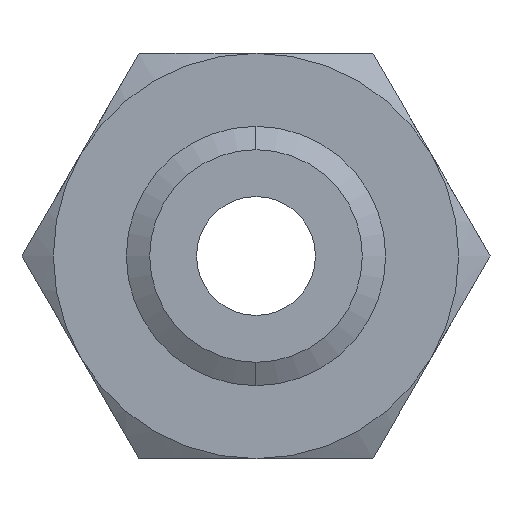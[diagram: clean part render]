
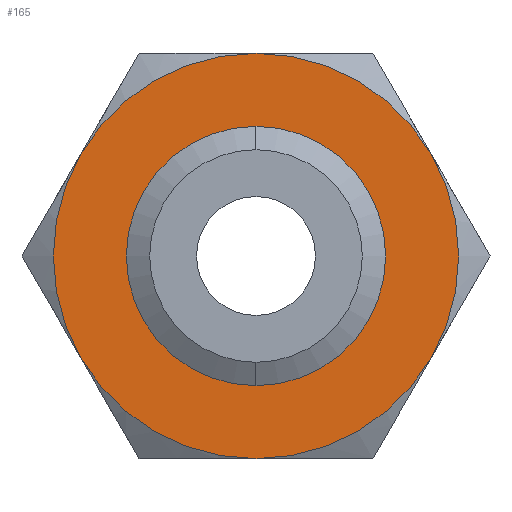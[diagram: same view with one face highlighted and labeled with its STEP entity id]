
A CAD part, front view. The second image highlights one B-rep face of the part: STEP entity #165.
In plain terms, the highlighted planar face has unit normal (0, -1, 0).
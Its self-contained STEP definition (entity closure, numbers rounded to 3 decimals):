
#6 = EDGE_CURVE ( 'NONE', #206, #208, #595, .T. ) ;
#148 = EDGE_LOOP ( 'NONE', ( #162, #172, #2136, #2129, #2130, #2126 ) ) ;
#150 = VERTEX_POINT ( 'NONE', #837 ) ;
#162 = ORIENTED_EDGE ( 'NONE', *, *, #171, .F. ) ;
#165 = ADVANCED_FACE ( 'NONE', ( #879, #878 ), #877, .F. ) ;
#170 = VERTEX_POINT ( 'NONE', #866 ) ;
#171 = EDGE_CURVE ( 'NONE', #150, #170, #865, .T. ) ;
#172 = ORIENTED_EDGE ( 'NONE', *, *, #2134, .F. ) ;
#206 = VERTEX_POINT ( 'NONE', #974 ) ;
#208 = VERTEX_POINT ( 'NONE', #969 ) ;
#392 = EDGE_CURVE ( 'NONE', #208, #206, #1306, .T. ) ;
#591 = DIRECTION ( 'NONE',  ( 0., 0., -1. ) ) ;
#592 = DIRECTION ( 'NONE',  ( 0., -1., 0. ) ) ;
#593 = CARTESIAN_POINT ( 'NONE',  ( 0., 0., 0. ) ) ;
#594 = AXIS2_PLACEMENT_3D ( 'NONE', #593, #592, #591 ) ;
#595 = CIRCLE ( 'NONE', #594, 19.67 ) ;
#837 = CARTESIAN_POINT ( 'NONE',  ( 0., 0., 37.5 ) ) ;
#861 = DIRECTION ( 'NONE',  ( 0., 0., 1. ) ) ;
#862 = DIRECTION ( 'NONE',  ( 0., 1., 0. ) ) ;
#863 = CARTESIAN_POINT ( 'NONE',  ( 0., 0., 0. ) ) ;
#864 = AXIS2_PLACEMENT_3D ( 'NONE', #863, #862, #861 ) ;
#865 = CIRCLE ( 'NONE', #864, 37.5 ) ;
#866 = CARTESIAN_POINT ( 'NONE',  ( 32.476, 0., 18.75 ) ) ;
#873 = DIRECTION ( 'NONE',  ( 0., 0., 1. ) ) ;
#874 = DIRECTION ( 'NONE',  ( 0., 1., 0. ) ) ;
#875 = CARTESIAN_POINT ( 'NONE',  ( 21.651, 0., -37.5 ) ) ;
#876 = AXIS2_PLACEMENT_3D ( 'NONE', #875, #874, #873 ) ;
#877 = PLANE ( 'NONE',  #876 ) ;
#878 = FACE_BOUND ( 'NONE', #2119, .T. ) ;
#879 = FACE_OUTER_BOUND ( 'NONE', #148, .T. ) ;
#969 = CARTESIAN_POINT ( 'NONE',  ( 0., 0., -19.67 ) ) ;
#974 = CARTESIAN_POINT ( 'NONE',  ( 0., 0., 19.67 ) ) ;
#1303 = DIRECTION ( 'NONE',  ( 0., 0., -1. ) ) ;
#1304 = DIRECTION ( 'NONE',  ( 0., -1., 0. ) ) ;
#1305 = AXIS2_PLACEMENT_3D ( 'NONE', #1311, #1304, #1303 ) ;
#1306 = CIRCLE ( 'NONE', #1305, 19.67 ) ;
#1311 = CARTESIAN_POINT ( 'NONE',  ( 0., 0., 0. ) ) ;
#1885 = DIRECTION ( 'NONE',  ( 0., 0., 1. ) ) ;
#1886 = DIRECTION ( 'NONE',  ( 0., 1., 0. ) ) ;
#1887 = CARTESIAN_POINT ( 'NONE',  ( 0., 0., 0. ) ) ;
#1888 = AXIS2_PLACEMENT_3D ( 'NONE', #1887, #1886, #1885 ) ;
#1889 = CIRCLE ( 'NONE', #1888, 37.5 ) ;
#1896 = DIRECTION ( 'NONE',  ( 0., 0., 1. ) ) ;
#1897 = DIRECTION ( 'NONE',  ( 0., 1., 0. ) ) ;
#1898 = CARTESIAN_POINT ( 'NONE',  ( 0., 0., 0. ) ) ;
#1899 = AXIS2_PLACEMENT_3D ( 'NONE', #1898, #1897, #1896 ) ;
#1900 = CARTESIAN_POINT ( 'NONE',  ( 32.476, 0., -18.75 ) ) ;
#1906 = CIRCLE ( 'NONE', #1899, 37.5 ) ;
#1918 = DIRECTION ( 'NONE',  ( 0., 0., 1. ) ) ;
#1919 = DIRECTION ( 'NONE',  ( 0., 1., 0. ) ) ;
#1920 = CARTESIAN_POINT ( 'NONE',  ( 0., 0., 0. ) ) ;
#1921 = AXIS2_PLACEMENT_3D ( 'NONE', #1920, #1919, #1918 ) ;
#1922 = CIRCLE ( 'NONE', #1921, 37.5 ) ;
#1923 = CARTESIAN_POINT ( 'NONE',  ( -32.476, 0., -18.75 ) ) ;
#1924 = DIRECTION ( 'NONE',  ( 0., 0., 1. ) ) ;
#1925 = DIRECTION ( 'NONE',  ( 0., 1., 0. ) ) ;
#1926 = CARTESIAN_POINT ( 'NONE',  ( 0., 0., 0. ) ) ;
#1927 = AXIS2_PLACEMENT_3D ( 'NONE', #1926, #1925, #1924 ) ;
#1928 = CIRCLE ( 'NONE', #1927, 37.5 ) ;
#1929 = CARTESIAN_POINT ( 'NONE',  ( 0., 0., -37.5 ) ) ;
#1930 = DIRECTION ( 'NONE',  ( 0., 0., 1. ) ) ;
#1931 = DIRECTION ( 'NONE',  ( 0., 1., 0. ) ) ;
#1932 = CARTESIAN_POINT ( 'NONE',  ( 0., 0., 0. ) ) ;
#1933 = AXIS2_PLACEMENT_3D ( 'NONE', #1932, #1931, #1930 ) ;
#1934 = CIRCLE ( 'NONE', #1933, 37.5 ) ;
#1935 = CARTESIAN_POINT ( 'NONE',  ( -32.476, 0., 18.75 ) ) ;
#2119 = EDGE_LOOP ( 'NONE', ( #2122, #2141 ) ) ;
#2122 = ORIENTED_EDGE ( 'NONE', *, *, #392, .F. ) ;
#2123 = EDGE_CURVE ( 'NONE', #170, #2124, #1906, .T. ) ;
#2124 = VERTEX_POINT ( 'NONE', #1900 ) ;
#2126 = ORIENTED_EDGE ( 'NONE', *, *, #2123, .F. ) ;
#2129 = ORIENTED_EDGE ( 'NONE', *, *, #2138, .F. ) ;
#2130 = ORIENTED_EDGE ( 'NONE', *, *, #2132, .F. ) ;
#2132 = EDGE_CURVE ( 'NONE', #2124, #2137, #1889, .T. ) ;
#2134 = EDGE_CURVE ( 'NONE', #2135, #150, #1934, .T. ) ;
#2135 = VERTEX_POINT ( 'NONE', #1935 ) ;
#2136 = ORIENTED_EDGE ( 'NONE', *, *, #2140, .F. ) ;
#2137 = VERTEX_POINT ( 'NONE', #1929 ) ;
#2138 = EDGE_CURVE ( 'NONE', #2137, #2139, #1928, .T. ) ;
#2139 = VERTEX_POINT ( 'NONE', #1923 ) ;
#2140 = EDGE_CURVE ( 'NONE', #2139, #2135, #1922, .T. ) ;
#2141 = ORIENTED_EDGE ( 'NONE', *, *, #6, .F. ) ;
